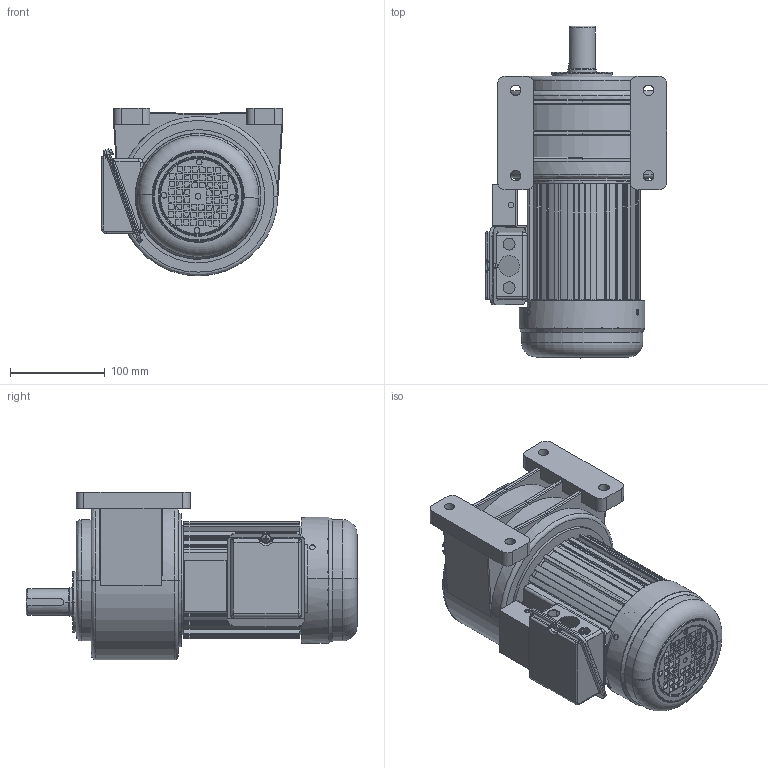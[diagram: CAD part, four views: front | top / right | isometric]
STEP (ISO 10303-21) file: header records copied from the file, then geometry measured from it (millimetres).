
FILE_DESCRIPTION (( 'STEP AP203' ), '1' );
FILE_NAME ('µ¥Ïà200WÅä3#wÊ½´øÉ²³µ.STEP', '2020-04-23T03:52:03', ( 'china' ), ( 'china' ), 'SwSTEP 2.0', 'SolidWorks 2019', '' );
FILE_SCHEMA (( 'CONFIG_CONTROL_DESIGN' ));
Length unit declared in the file: millimetre
Products named in the file (5): 等眈200W饜3#w宒湍价陬; 等眈200W3#拏宒; 100W棠憤迖殤; 100W价陬瑞欶; 淕霜ん
Assembly tree (4 placements, depth 2):
  等眈200W饜3#w宒湍价陬
    等眈200W3#拏宒
    100W棠憤迖殤
    100W价陬瑞欶
    淕霜ん
Bounding box: 190.9 x 349.93 x 177 mm (x, y, z)
Volume: 3174243.3 mm3; surface area: 461989.5 mm2
Topology: 8 solids, 8 shells, 981 faces, 2672 edges, 1717 vertices
Faces by surface type: plane 433, cylinder 410, torus 58, bspline 45, cone 29, sphere 6
Entity records: 36041 total; most frequent: CARTESIAN_POINT 10210, DIRECTION 5310, ORIENTED_EDGE 5308, EDGE_CURVE 2654, AXIS2_PLACEMENT_3D 1877, VERTEX_POINT 1717, LINE 1556, VECTOR 1556
